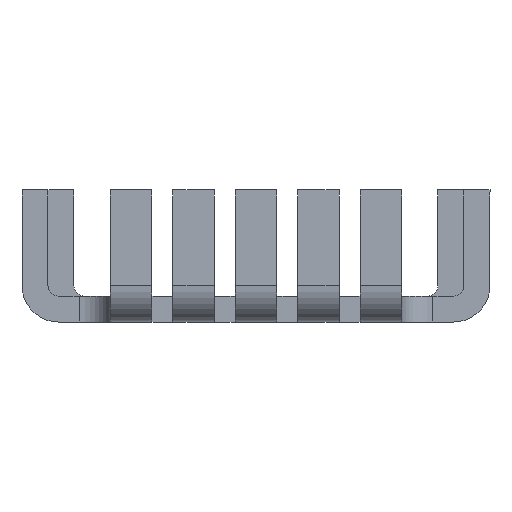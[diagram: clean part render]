
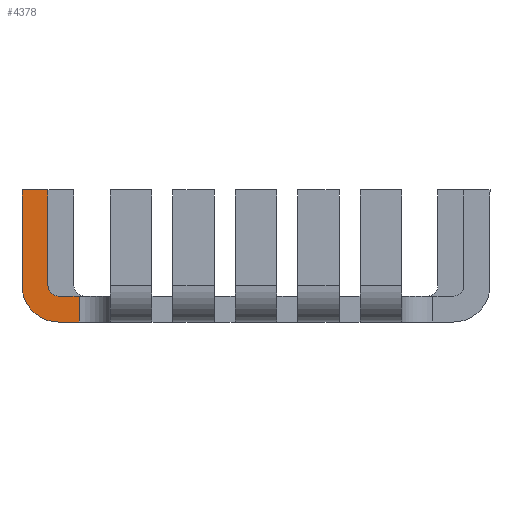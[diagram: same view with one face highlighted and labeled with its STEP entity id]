
A CAD part, front view. The second image highlights one B-rep face of the part: STEP entity #4378.
In plain terms, the highlighted planar face has unit normal (0, -1, 0).
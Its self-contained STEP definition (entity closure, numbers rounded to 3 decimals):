
#616=CARTESIAN_POINT('',(19.808,25.367,0.0));
#617=VERTEX_POINT('',#616);
#625=CARTESIAN_POINT('',(17.808,25.367,0.0));
#626=VERTEX_POINT('',#625);
#627=CARTESIAN_POINT('',(17.808,25.367,0.0));
#628=DIRECTION('',(1.0,0.0,0.0));
#629=VECTOR('',#628,2.);
#630=LINE('',#627,#629);
#631=EDGE_CURVE('',#626,#617,#630,.T.);
#1400=CARTESIAN_POINT('',(16.808,25.367,3.5));
#1401=VERTEX_POINT('',#1400);
#1410=CARTESIAN_POINT('',(17.808,25.367,2.5));
#1411=VERTEX_POINT('',#1410);
#1412=CARTESIAN_POINT('',(17.808,25.367,3.5));
#1413=DIRECTION('',(0.0,1.0,0.0));
#1414=DIRECTION('',(0.0,0.0,-1.0));
#1415=AXIS2_PLACEMENT_3D('',#1412,#1413,#1414);
#1416=CIRCLE('',#1415,1.0);
#1417=EDGE_CURVE('',#1411,#1401,#1416,.T.);
#1444=CARTESIAN_POINT('',(14.308,25.367,3.5));
#1445=VERTEX_POINT('',#1444);
#1460=CARTESIAN_POINT('',(17.808,25.367,3.5));
#1461=DIRECTION('',(0.0,1.0,0.0));
#1462=DIRECTION('',(0.0,0.0,-1.0));
#1463=AXIS2_PLACEMENT_3D('',#1460,#1461,#1462);
#1464=CIRCLE('',#1463,3.5);
#1465=EDGE_CURVE('',#626,#1445,#1464,.T.);
#2023=CARTESIAN_POINT('',(19.808,25.367,2.5));
#2024=VERTEX_POINT('',#2023);
#2025=CARTESIAN_POINT('',(19.808,25.367,2.5));
#2026=DIRECTION('',(-1.0,0.0,0.0));
#2027=VECTOR('',#2026,2.);
#2028=LINE('',#2025,#2027);
#2029=EDGE_CURVE('',#2024,#1411,#2028,.T.);
#4044=CARTESIAN_POINT('',(19.808,25.367,0.0));
#4045=DIRECTION('',(0.0,0.0,1.0));
#4046=VECTOR('',#4045,2.5);
#4047=LINE('',#4044,#4046);
#4048=EDGE_CURVE('',#617,#2024,#4047,.T.);
#4333=CARTESIAN_POINT('',(14.308,25.367,12.7));
#4334=VERTEX_POINT('',#4333);
#4335=CARTESIAN_POINT('',(14.308,25.367,12.7));
#4336=DIRECTION('',(0.0,0.0,-1.0));
#4337=VECTOR('',#4336,9.2);
#4338=LINE('',#4335,#4337);
#4339=EDGE_CURVE('',#4334,#1445,#4338,.T.);
#4351=CARTESIAN_POINT('',(14.308,25.367,2.5));
#4352=DIRECTION('',(0.0,-1.0,0.0));
#4353=DIRECTION('',(0.0,0.0,-1.0));
#4354=AXIS2_PLACEMENT_3D('',#4351,#4352,#4353);
#4355=PLANE('',#4354);
#4356=CARTESIAN_POINT('',(16.808,25.367,12.7));
#4357=VERTEX_POINT('',#4356);
#4358=CARTESIAN_POINT('',(16.808,25.367,3.5));
#4359=DIRECTION('',(0.0,0.0,1.0));
#4360=VECTOR('',#4359,9.2);
#4361=LINE('',#4358,#4360);
#4362=EDGE_CURVE('',#1401,#4357,#4361,.T.);
#4363=ORIENTED_EDGE('',*,*,#4362,.T.);
#4364=CARTESIAN_POINT('',(14.308,25.367,12.7));
#4365=DIRECTION('',(1.0,0.0,0.0));
#4366=VECTOR('',#4365,2.5);
#4367=LINE('',#4364,#4366);
#4368=EDGE_CURVE('',#4334,#4357,#4367,.T.);
#4369=ORIENTED_EDGE('',*,*,#4368,.F.);
#4370=ORIENTED_EDGE('',*,*,#4339,.T.);
#4371=ORIENTED_EDGE('',*,*,#1465,.F.);
#4372=ORIENTED_EDGE('',*,*,#631,.T.);
#4373=ORIENTED_EDGE('',*,*,#4048,.T.);
#4374=ORIENTED_EDGE('',*,*,#2029,.T.);
#4375=ORIENTED_EDGE('',*,*,#1417,.T.);
#4376=EDGE_LOOP('',(#4363,#4369,#4370,#4371,#4372,#4373,#4374,#4375));
#4377=FACE_OUTER_BOUND('',#4376,.T.);
#4378=ADVANCED_FACE('',(#4377),#4355,.T.);
